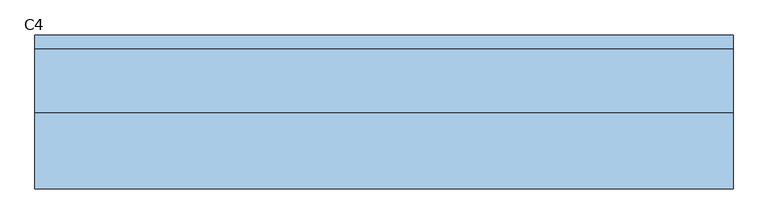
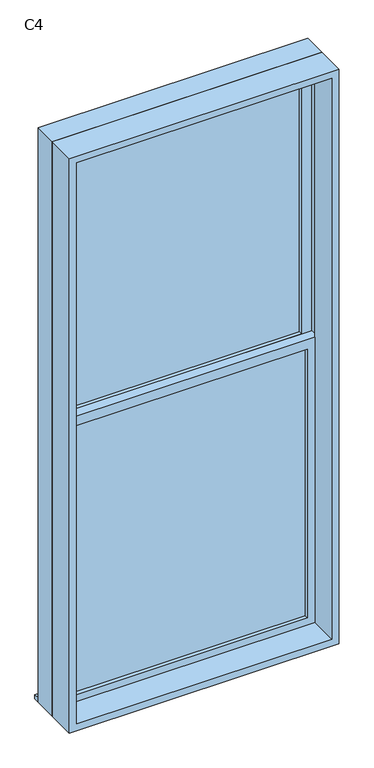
"""IFC4 building model written with IfcOpenShell, lengths in millimetres: window geometry, 上下拉窗1 : C4."""

from ifc_helpers import new_model, si_unit, frame, origin, place, context, project, spatial, polyline, outline, extrude, source, transform, mapped, element, save


def c4_9eb043cc(model_context):
    return source(origin(), model_context, "Body", "SweptSolid", [
        extrude(outline(polyline([(-535.0, 82.2615397), (535.0, 82.2615397), (535.0, 72.2615397), (-535.0, 72.2615397), (-535.0, 82.2615397)])), frame((0.0, 0.0, 1672.5), z_axis=(0.0, 0.0, 1.0), x_axis=(1.0, 0.0, 0.0)), (0.0, 0.0, 1.0), 1262.5),
        extrude(outline(polyline([(-535.0, 37.2615397), (535.0, 37.2615397), (535.0, 27.2615397), (-535.0, 27.2615397), (-535.0, 37.2615397)])), frame((0.0, 0.0, 365.0), z_axis=(0.0, 0.0, 1.0), x_axis=(1.0, 0.0, 0.0)), (0.0, 0.0, 1.0), 1262.5),
        extrude(outline(polyline([(1672.5, -580.0), (320.0, -580.0), (320.0, 580.0), (1672.5, 580.0), (1672.5, -580.0)]), holes=[polyline([(1627.5, -535.0), (1627.5, 535.0), (365.0, 535.0), (365.0, -535.0), (1627.5, -535.0)])]), frame((0.0, 9.7615397, 0.0), z_axis=(0.0, 1.0, 0.0), x_axis=(0.0, 0.0, 1.0)), (0.0, 0.0, 1.0), 45.0),
        extrude(outline(polyline([(2980.0, -580.0), (1627.5, -580.0), (1627.5, 580.0), (2980.0, 580.0), (2980.0, -580.0)]), holes=[polyline([(2935.0, -535.0), (2935.0, 535.0), (1672.5, 535.0), (1672.5, -535.0), (2935.0, -535.0)])]), frame((0.0, 54.7615397, 0.0), z_axis=(0.0, 1.0, 0.0), x_axis=(0.0, 0.0, 1.0)), (0.0, 0.0, 1.0), 45.0),
        extrude(outline(polyline([(3000.0, -600.0), (300.0, -600.0), (300.0, 600.0), (3000.0, 600.0), (3000.0, -600.0)]), holes=[polyline([(2968.0, -568.0), (2968.0, 568.0), (332.0, 568.0), (332.0, -568.0), (2968.0, -568.0)])]), frame((0.0, -120.2384603, 0.0), z_axis=(0.0, 1.0, 0.0), x_axis=(0.0, 0.0, 1.0)), (0.0, 0.0, 1.0), 130.0),
        extrude(outline(polyline([(3000.0, 600.0), (3000.0, -600.0), (300.0, -600.0), (300.0, 600.0), (3000.0, 600.0)]), holes=[polyline([(2980.0, 580.0), (320.0, 580.0), (320.0, -580.0), (2980.0, -580.0), (2980.0, 580.0)])]), frame((0.0, 9.7615397, 0.0), z_axis=(0.0, 1.0, 0.0), x_axis=(0.0, 0.0, 1.0)), (0.0, 0.0, 1.0), 110.0),
        extrude(outline(polyline([(-600.0, 144.7615397), (600.0, 144.7615397), (600.0, 119.7615397), (-600.0, 119.7615397), (-600.0, 144.7615397)])), frame((0.0, 0.0, 300.0), z_axis=(0.0, 0.0, 1.0), x_axis=(1.0, 0.0, 0.0)), (0.0, 0.0, 1.0), 20.0),
    ])


if __name__ == "__main__":
    model = new_model("IFC4")
    model_context = context("Model", 3, world=origin())
    ifc_project = project(units=[si_unit("LENGTHUNIT", "METRE", prefix="MILLI")], contexts=[model_context])
    site = spatial("IfcSite", under=ifc_project)
    building = spatial("IfcBuilding", under=site)
    placement = place(None, origin())
    c4_shape = c4_9eb043cc(model_context)
    element("IfcWindow", 1, ObjectType="上下拉窗1 : C4", at=placement, inside=building, context=model_context, shape_type="MappedRepresentation", body=[
        mapped(c4_shape, transform((0.0, 0.0, 0.0), x_axis=(1.0, 0.0, 0.0), y_axis=(0.0, 1.0, 0.0), z_axis=(0.0, 0.0, 1.0))),
    ])
    save(model, "model.ifc")
